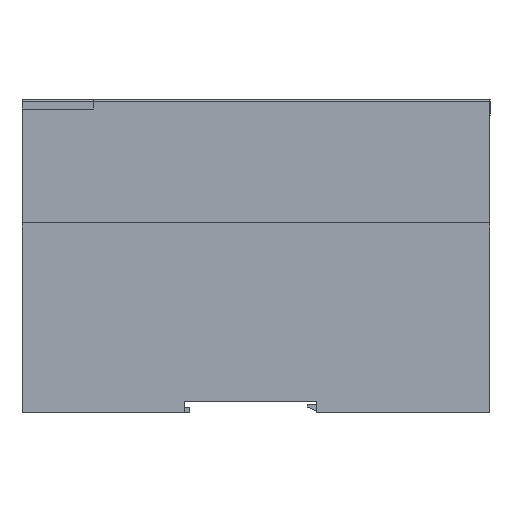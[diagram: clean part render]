
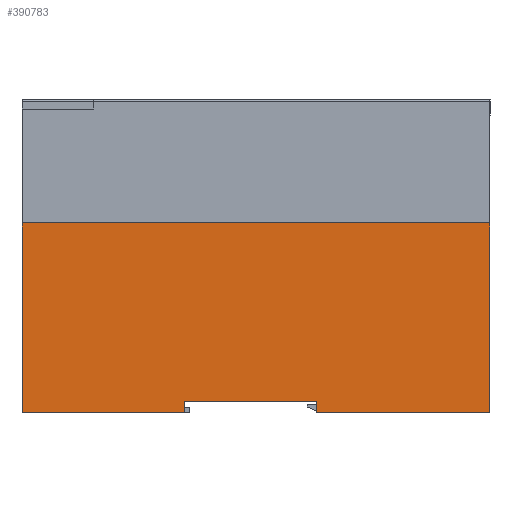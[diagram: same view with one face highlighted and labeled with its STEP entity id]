
A CAD part, left-side view. The second image highlights one B-rep face of the part: STEP entity #390783.
In plain terms, the highlighted planar face has unit normal (-1, 0, 0).
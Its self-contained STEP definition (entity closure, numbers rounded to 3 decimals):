
#1419 = VERTEX_POINT ( 'NONE', #326526 ) ;
#25249 = CARTESIAN_POINT ( 'NONE',  ( -41., 46., 3. ) ) ;
#38970 = VECTOR ( 'NONE', #361017, 1000. ) ;
#44659 = VECTOR ( 'NONE', #507723, 1000. ) ;
#49053 = VECTOR ( 'NONE', #411182, 1000. ) ;
#49549 = CARTESIAN_POINT ( 'NONE',  ( -41., 81., 3. ) ) ;
#55957 = CARTESIAN_POINT ( 'NONE',  ( -41., 0., 0. ) ) ;
#83605 = EDGE_CURVE ( 'NONE', #556569, #95860, #353812, .T. ) ;
#86899 = DIRECTION ( 'NONE',  ( 0., 0., -1. ) ) ;
#95860 = VERTEX_POINT ( 'NONE', #615744 ) ;
#117784 = VECTOR ( 'NONE', #187120, 1000. ) ;
#141685 = VERTEX_POINT ( 'NONE', #544979 ) ;
#142348 = EDGE_CURVE ( 'NONE', #1419, #187789, #222925, .T. ) ;
#148285 = VECTOR ( 'NONE', #236080, 1000. ) ;
#154036 = FACE_OUTER_BOUND ( 'NONE', #379992, .T. ) ;
#178112 = ORIENTED_EDGE ( 'NONE', *, *, #388317, .T. ) ;
#185217 = CARTESIAN_POINT ( 'NONE',  ( -41., 81., 3. ) ) ;
#187120 = DIRECTION ( 'NONE',  ( 0., -1., 0. ) ) ;
#187789 = VERTEX_POINT ( 'NONE', #599911 ) ;
#204818 = LINE ( 'NONE', #649236, #117784 ) ;
#207033 = VECTOR ( 'NONE', #351498, 1000. ) ;
#222925 = LINE ( 'NONE', #450953, #207033 ) ;
#232073 = ORIENTED_EDGE ( 'NONE', *, *, #405520, .F. ) ;
#236080 = DIRECTION ( 'NONE',  ( 0., 0., -1. ) ) ;
#237424 = CARTESIAN_POINT ( 'NONE',  ( -41., 124., 83. ) ) ;
#248466 = CARTESIAN_POINT ( 'NONE',  ( -41., 124., 50.3 ) ) ;
#250971 = LINE ( 'NONE', #306392, #44659 ) ;
#252669 = EDGE_CURVE ( 'NONE', #321967, #187789, #310341, .T. ) ;
#265238 = ORIENTED_EDGE ( 'NONE', *, *, #83605, .F. ) ;
#270497 = VECTOR ( 'NONE', #429865, 1000. ) ;
#296210 = ORIENTED_EDGE ( 'NONE', *, *, #444764, .T. ) ;
#303023 = ORIENTED_EDGE ( 'NONE', *, *, #542076, .F. ) ;
#306392 = CARTESIAN_POINT ( 'NONE',  ( -41., 81., 3. ) ) ;
#310341 = LINE ( 'NONE', #466383, #49053 ) ;
#319408 = ORIENTED_EDGE ( 'NONE', *, *, #142348, .T. ) ;
#321967 = VERTEX_POINT ( 'NONE', #589866 ) ;
#326526 = CARTESIAN_POINT ( 'NONE',  ( -41., 46., 0. ) ) ;
#351498 = DIRECTION ( 'NONE',  ( 0., -1., 0. ) ) ;
#353812 = LINE ( 'NONE', #185217, #148285 ) ;
#361017 = DIRECTION ( 'NONE',  ( 0., -1., 0. ) ) ;
#361948 = PLANE ( 'NONE',  #450428 ) ;
#379992 = EDGE_LOOP ( 'NONE', ( #232073, #178112, #531629, #265238, #303023, #296210, #319408, #519530 ) ) ;
#388317 = EDGE_CURVE ( 'NONE', #586285, #498012, #590261, .T. ) ;
#390783 = ADVANCED_FACE ( 'NONE', ( #154036 ), #361948, .F. ) ;
#405520 = EDGE_CURVE ( 'NONE', #586285, #321967, #204818, .T. ) ;
#407935 = VECTOR ( 'NONE', #86899, 1000. ) ;
#411182 = DIRECTION ( 'NONE',  ( 0., 0., -1. ) ) ;
#429865 = DIRECTION ( 'NONE',  ( 0., 0., -1. ) ) ;
#444764 = EDGE_CURVE ( 'NONE', #141685, #1419, #531957, .T. ) ;
#450428 = AXIS2_PLACEMENT_3D ( 'NONE', #614161, #618493, #465765 ) ;
#450953 = CARTESIAN_POINT ( 'NONE',  ( -41., 0., 0. ) ) ;
#465765 = DIRECTION ( 'NONE',  ( 0., 0., -1. ) ) ;
#466383 = CARTESIAN_POINT ( 'NONE',  ( -41., 0., 83. ) ) ;
#481765 = LINE ( 'NONE', #55957, #38970 ) ;
#494520 = EDGE_CURVE ( 'NONE', #498012, #95860, #481765, .T. ) ;
#498012 = VERTEX_POINT ( 'NONE', #514648 ) ;
#507723 = DIRECTION ( 'NONE',  ( 0., 1., 0. ) ) ;
#514648 = CARTESIAN_POINT ( 'NONE',  ( -41., 124., 0. ) ) ;
#519530 = ORIENTED_EDGE ( 'NONE', *, *, #252669, .F. ) ;
#531629 = ORIENTED_EDGE ( 'NONE', *, *, #494520, .T. ) ;
#531957 = LINE ( 'NONE', #25249, #270497 ) ;
#542076 = EDGE_CURVE ( 'NONE', #141685, #556569, #250971, .T. ) ;
#544979 = CARTESIAN_POINT ( 'NONE',  ( -41., 46., 3. ) ) ;
#556569 = VERTEX_POINT ( 'NONE', #49549 ) ;
#586285 = VERTEX_POINT ( 'NONE', #248466 ) ;
#589866 = CARTESIAN_POINT ( 'NONE',  ( -41., 0., 50.3 ) ) ;
#590261 = LINE ( 'NONE', #237424, #407935 ) ;
#599911 = CARTESIAN_POINT ( 'NONE',  ( -41., 0., 0. ) ) ;
#614161 = CARTESIAN_POINT ( 'NONE',  ( -41., 0., 83. ) ) ;
#615744 = CARTESIAN_POINT ( 'NONE',  ( -41., 81., 0. ) ) ;
#618493 = DIRECTION ( 'NONE',  ( 1., 0., 0. ) ) ;
#649236 = CARTESIAN_POINT ( 'NONE',  ( -41., 0., 50.3 ) ) ;
